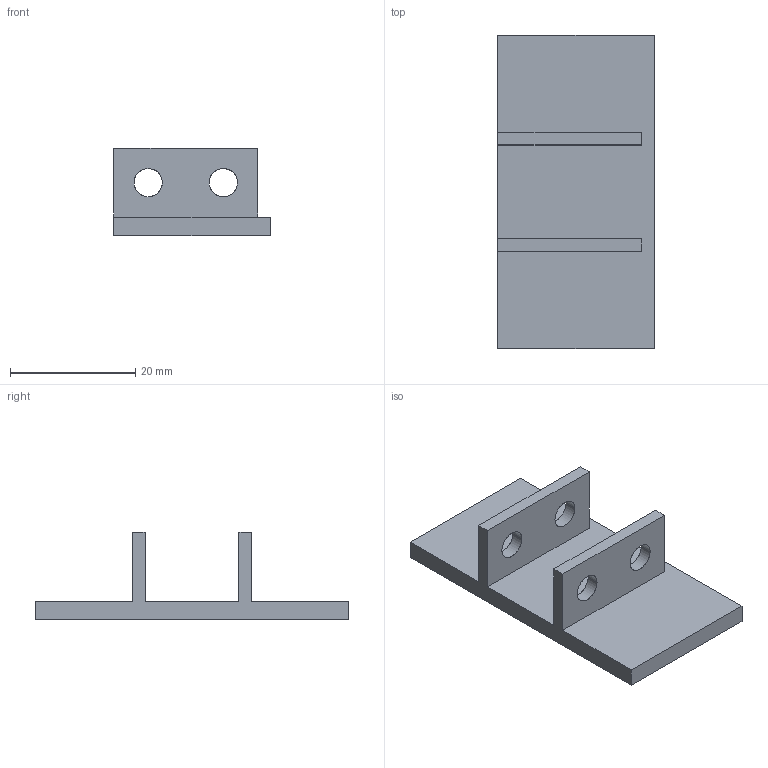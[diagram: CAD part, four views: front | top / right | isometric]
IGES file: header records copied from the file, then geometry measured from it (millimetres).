
Start section: SolidWorks IGES file using analytic representation for surfaces
Global section: file name: C:\Documents and Settings\URETIM3\Desktop\yeni katalog tolgay\843 asetal zincir bant\843 B00 050.IGS; native system: SolidWorks 2006 by SolidWorks Corporation; preprocessor: SolidWorks 2006 by SolidWorks Corporation; author: URETIM3; date: 061030.095149; units: millimetre
Bounding box: 25 x 50 x 14 mm (x, y, z)
Surface area: 4035.9 mm2 (no closed solid volume)
Topology: 0 solids, 0 shells, 22 faces, 360 edges, 360 vertices
Faces by surface type: bspline 14, revolution 8
